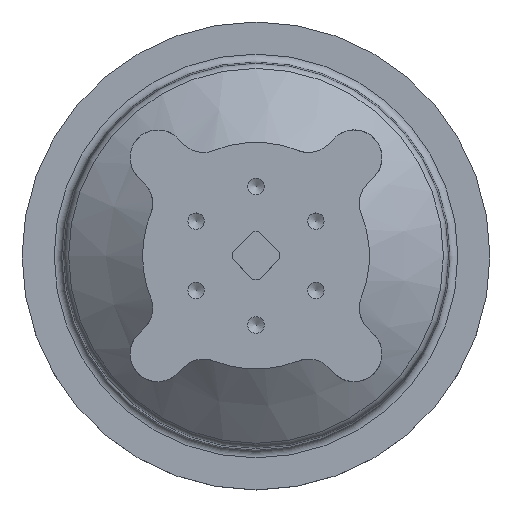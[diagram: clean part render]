
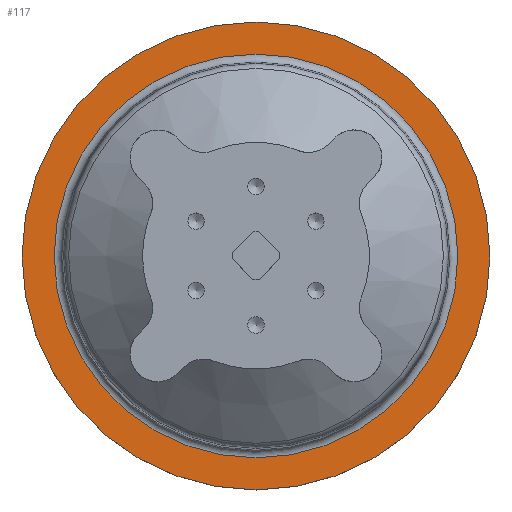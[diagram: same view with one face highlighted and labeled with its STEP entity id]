
A CAD part, top view. The second image highlights one B-rep face of the part: STEP entity #117.
In plain terms, the highlighted planar face has unit normal (0, 0, 1).
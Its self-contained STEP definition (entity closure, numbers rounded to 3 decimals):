
#117 = ADVANCED_FACE( '', ( #298, #299 ), #300, .F. );
#298 = FACE_OUTER_BOUND( '', #569, .T. );
#299 = FACE_BOUND( '', #570, .T. );
#300 = PLANE( '', #571 );
#569 = EDGE_LOOP( '', ( #883 ) );
#570 = EDGE_LOOP( '', ( #884 ) );
#571 = AXIS2_PLACEMENT_3D( '', #885, #886, #887 );
#883 = ORIENTED_EDGE( '', *, *, #1416, .F. );
#884 = ORIENTED_EDGE( '', *, *, #1368, .T. );
#885 = CARTESIAN_POINT( '', ( -50.899, 0., -4.55 ) );
#886 = DIRECTION( '', ( 0., 0., -1. ) );
#887 = DIRECTION( '', ( -1., 0., 0. ) );
#1368 = EDGE_CURVE( '', #1586, #1586, #1587, .T. );
#1416 = EDGE_CURVE( '', #1672, #1672, #1673, .T. );
#1586 = VERTEX_POINT( '', #1897 );
#1587 = CIRCLE( '', #1898, 50.899 );
#1672 = VERTEX_POINT( '', #2315 );
#1673 = CIRCLE( '', #2316, 59. );
#1897 = CARTESIAN_POINT( '', ( -50.899, 0., -4.55 ) );
#1898 = AXIS2_PLACEMENT_3D( '', #2575, #2576, #2577 );
#2315 = CARTESIAN_POINT( '', ( -59., 0., -4.55 ) );
#2316 = AXIS2_PLACEMENT_3D( '', #2624, #2625, #2626 );
#2575 = CARTESIAN_POINT( '', ( 0., 0., -4.55 ) );
#2576 = DIRECTION( '', ( 0., 0., -1. ) );
#2577 = DIRECTION( '', ( -1., 0., 0. ) );
#2624 = CARTESIAN_POINT( '', ( 0., 0., -4.55 ) );
#2625 = DIRECTION( '', ( 0., 0., -1. ) );
#2626 = DIRECTION( '', ( -1., 0., 0. ) );
